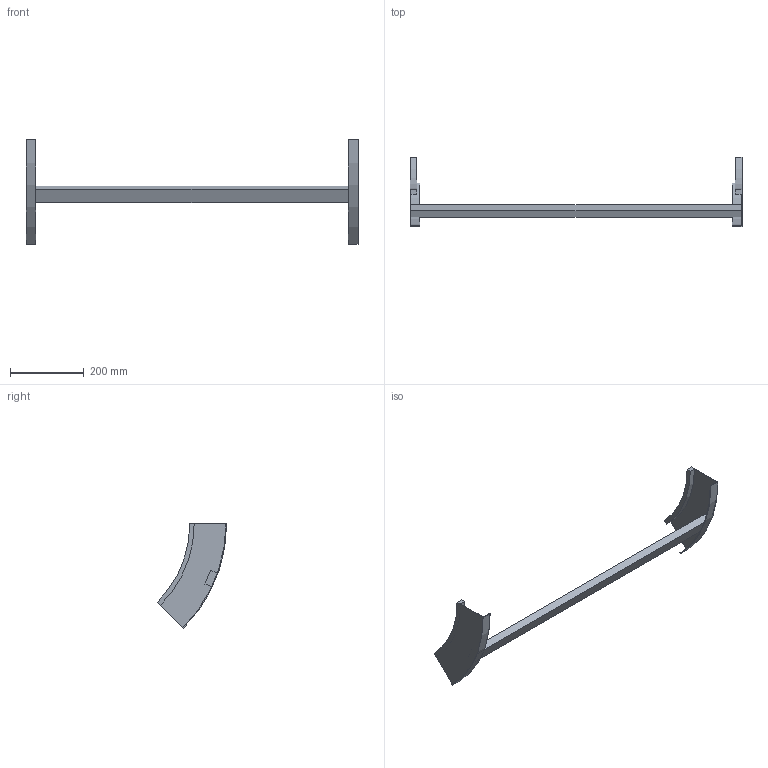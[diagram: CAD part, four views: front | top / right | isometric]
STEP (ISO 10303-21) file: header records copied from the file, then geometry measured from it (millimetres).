
FILE_DESCRIPTION (( 'STEP AP214' ), '1' );
FILE_NAME ('B2X31B3D900XX.step', '2025-03-20T10:05:36', ( '' ), ( '' ), 'SwSTEP 2.0', 'SolidWorks 2023', '' );
FILE_SCHEMA (( 'AUTOMOTIVE_DESIGN' ));
Length unit declared in the file: millimetre
Products named in the file (3): TRAVERSINO_900; B2_LONGH.SALITA_45°_H100_R300; B2X31B3D900XX
Assembly tree (3 placements, depth 2):
  B2X31B3D900XX
    B2_LONGH.SALITA_45°_H100_R300  x2
    TRAVERSINO_900
Bounding box: 900 x 187.87 x 282.84 mm (x, y, z)
Volume: 959340.6 mm3; surface area: 270677.5 mm2
Topology: 3 solids, 3 shells, 26 faces, 60 edges, 40 vertices
Faces by surface type: plane 18, cylinder 8
Entity records: 544 total; most frequent: DIRECTION 88, CARTESIAN_POINT 82, ORIENTED_EDGE 72, EDGE_CURVE 36, AXIS2_PLACEMENT_3D 30, LINE 28, VECTOR 28, VERTEX_POINT 24
